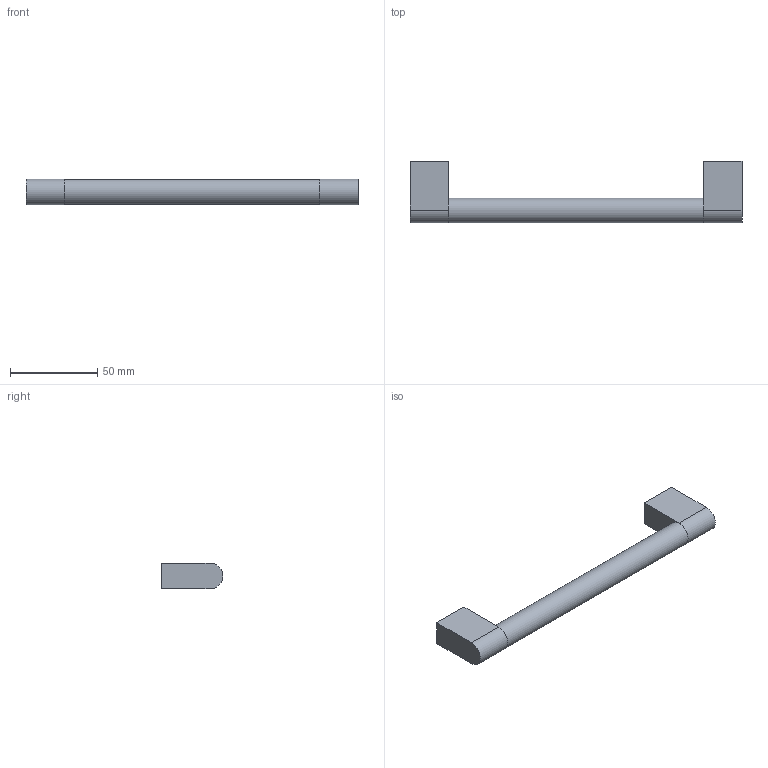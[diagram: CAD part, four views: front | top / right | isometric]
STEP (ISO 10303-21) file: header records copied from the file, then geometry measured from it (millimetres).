
FILE_DESCRIPTION( ( 'STEP AP214' ), '1' );
FILE_NAME( 'C:/Shahbaz/Shahbaz D&D/Task/Working-ON/Varna/QC/9332318.stp', '2023-08-29T06:55:47', ( '' ), ( '' ), ' ', 'PARTsolutions', ' ' );
FILE_SCHEMA( ( 'AUTOMOTIVE_DESIGN { 1 0 10303 214 1 1 1 1 }' ) );
Length unit declared in the file: millimetre
Products named in the file (1): _9332318
Bounding box: 190 x 35.36 x 14.64 mm (x, y, z)
Volume: 43981.6 mm3; surface area: 12883 mm2
Topology: 1 solids, 1 shells, 17 faces, 33 edges, 22 vertices
Faces by surface type: plane 12, cylinder 5
Full cylindrical faces by diameter (mm): 6.2 x2, 14.2 x1
Entity records: 574 total; most frequent: DIRECTION 76, CARTESIAN_POINT 70, ORIENTED_EDGE 60, EDGE_CURVE 30, AXIS2_PLACEMENT_3D 28, EDGE_LOOP 24, VERTEX_POINT 22, FACE_OUTER_BOUND 20
